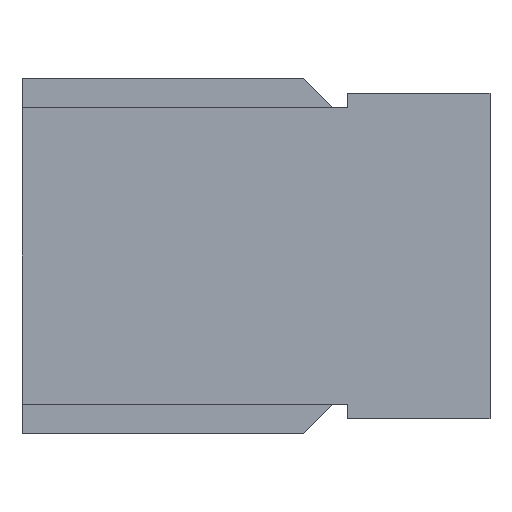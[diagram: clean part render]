
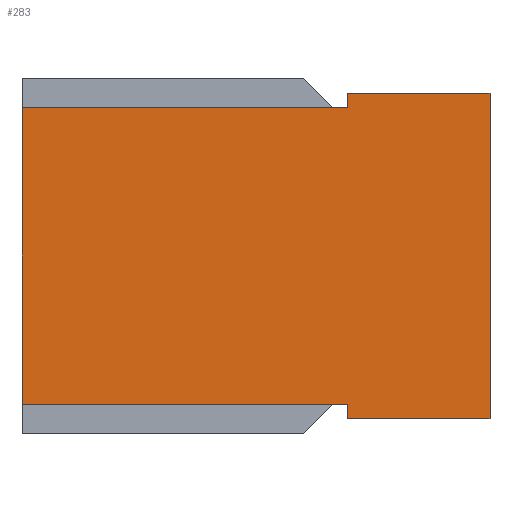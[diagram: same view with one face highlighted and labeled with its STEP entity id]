
A CAD part, front view. The second image highlights one B-rep face of the part: STEP entity #283.
In plain terms, the highlighted planar face has unit normal (0, -1, 0).
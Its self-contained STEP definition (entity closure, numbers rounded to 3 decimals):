
#48 = CARTESIAN_POINT ( 'NONE',  ( -15.8, 0., 5. ) ) ;
#164 = DIRECTION ( 'NONE',  ( 1., 0., 0. ) ) ;
#165 = VECTOR ( 'NONE', #164, 1000. ) ;
#166 = CARTESIAN_POINT ( 'NONE',  ( -15.8, 0., 5. ) ) ;
#167 = LINE ( 'NONE', #166, #165 ) ;
#205 = VERTEX_POINT ( 'NONE', #436 ) ;
#209 = VERTEX_POINT ( 'NONE', #430 ) ;
#213 = EDGE_CURVE ( 'NONE', #209, #205, #425, .T. ) ;
#248 = VERTEX_POINT ( 'NONE', #559 ) ;
#250 = EDGE_CURVE ( 'NONE', #248, #410, #525, .T. ) ;
#268 = ORIENTED_EDGE ( 'NONE', *, *, #269, .T. ) ;
#269 = EDGE_CURVE ( 'NONE', #272, #205, #486, .T. ) ;
#270 = EDGE_CURVE ( 'NONE', #298, #209, #607, .T. ) ;
#271 = EDGE_CURVE ( 'NONE', #248, #272, #492, .T. ) ;
#272 = VERTEX_POINT ( 'NONE', #488 ) ;
#279 = ORIENTED_EDGE ( 'NONE', *, *, #280, .F. ) ;
#280 = EDGE_CURVE ( 'NONE', #281, #288, #517, .T. ) ;
#281 = VERTEX_POINT ( 'NONE', #513 ) ;
#283 = ADVANCED_FACE ( 'NONE', ( #589 ), #588, .F. ) ;
#284 = EDGE_LOOP ( 'NONE', ( #285, #268, #296, #297, #286, #279, #341, #343 ) ) ;
#285 = ORIENTED_EDGE ( 'NONE', *, *, #271, .T. ) ;
#286 = ORIENTED_EDGE ( 'NONE', *, *, #287, .T. ) ;
#287 = EDGE_CURVE ( 'NONE', #298, #288, #583, .T. ) ;
#288 = VERTEX_POINT ( 'NONE', #579 ) ;
#296 = ORIENTED_EDGE ( 'NONE', *, *, #213, .F. ) ;
#297 = ORIENTED_EDGE ( 'NONE', *, *, #270, .F. ) ;
#298 = VERTEX_POINT ( 'NONE', #595 ) ;
#341 = ORIENTED_EDGE ( 'NONE', *, *, #342, .F. ) ;
#342 = EDGE_CURVE ( 'NONE', #410, #281, #167, .T. ) ;
#343 = ORIENTED_EDGE ( 'NONE', *, *, #250, .F. ) ;
#410 = VERTEX_POINT ( 'NONE', #48 ) ;
#425 = LINE ( 'NONE', #465, #464 ) ;
#430 = CARTESIAN_POINT ( 'NONE',  ( 0., 0., -5.5 ) ) ;
#436 = CARTESIAN_POINT ( 'NONE',  ( -4.8, 0., -5.5 ) ) ;
#463 = DIRECTION ( 'NONE',  ( -1., 0., 0. ) ) ;
#464 = VECTOR ( 'NONE', #463, 1000. ) ;
#465 = CARTESIAN_POINT ( 'NONE',  ( -15.8, 0., -5.5 ) ) ;
#468 = DIRECTION ( 'NONE',  ( 0., 0., 1. ) ) ;
#469 = VECTOR ( 'NONE', #468, 1000. ) ;
#484 = VECTOR ( 'NONE', #608, 1000. ) ;
#485 = CARTESIAN_POINT ( 'NONE',  ( -4.8, 0., -5.5 ) ) ;
#486 = LINE ( 'NONE', #485, #484 ) ;
#488 = CARTESIAN_POINT ( 'NONE',  ( -4.8, 0., -5. ) ) ;
#489 = DIRECTION ( 'NONE',  ( 1., 0., 0. ) ) ;
#490 = VECTOR ( 'NONE', #489, 1000. ) ;
#491 = CARTESIAN_POINT ( 'NONE',  ( -15.8, 0., -5. ) ) ;
#492 = LINE ( 'NONE', #491, #490 ) ;
#513 = CARTESIAN_POINT ( 'NONE',  ( -4.8, 0., 5. ) ) ;
#514 = DIRECTION ( 'NONE',  ( 0., 0., 1. ) ) ;
#515 = VECTOR ( 'NONE', #514, 1000. ) ;
#516 = CARTESIAN_POINT ( 'NONE',  ( -4.8, 0., 5.5 ) ) ;
#517 = LINE ( 'NONE', #516, #515 ) ;
#524 = CARTESIAN_POINT ( 'NONE',  ( -15.8, 0., -5.5 ) ) ;
#525 = LINE ( 'NONE', #524, #469 ) ;
#559 = CARTESIAN_POINT ( 'NONE',  ( -15.8, 0., -5. ) ) ;
#579 = CARTESIAN_POINT ( 'NONE',  ( -4.8, 0., 5.5 ) ) ;
#580 = DIRECTION ( 'NONE',  ( -1., 0., 0. ) ) ;
#581 = VECTOR ( 'NONE', #580, 1000. ) ;
#582 = CARTESIAN_POINT ( 'NONE',  ( -15.8, 0., 5.5 ) ) ;
#583 = LINE ( 'NONE', #582, #581 ) ;
#584 = DIRECTION ( 'NONE',  ( 0., 0., 1. ) ) ;
#585 = DIRECTION ( 'NONE',  ( 0., 1., 0. ) ) ;
#586 = CARTESIAN_POINT ( 'NONE',  ( -15.8, 0., 0. ) ) ;
#587 = AXIS2_PLACEMENT_3D ( 'NONE', #586, #585, #584 ) ;
#588 = PLANE ( 'NONE',  #587 ) ;
#589 = FACE_OUTER_BOUND ( 'NONE', #284, .T. ) ;
#595 = CARTESIAN_POINT ( 'NONE',  ( 0., 0., 5.5 ) ) ;
#604 = DIRECTION ( 'NONE',  ( 0., 0., -1. ) ) ;
#605 = VECTOR ( 'NONE', #604, 1000. ) ;
#606 = CARTESIAN_POINT ( 'NONE',  ( 0., 0., -5.5 ) ) ;
#607 = LINE ( 'NONE', #606, #605 ) ;
#608 = DIRECTION ( 'NONE',  ( 0., 0., -1. ) ) ;
